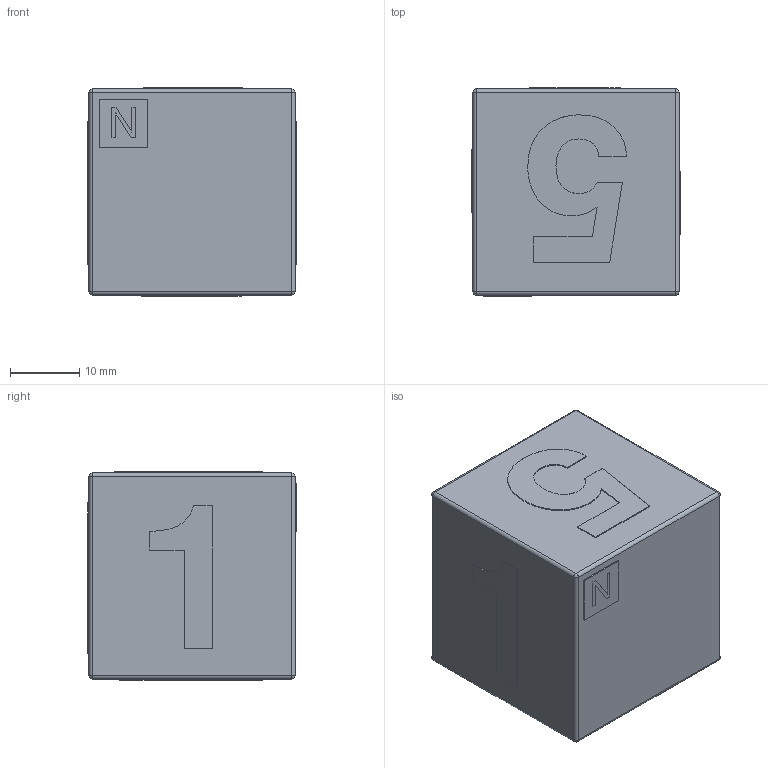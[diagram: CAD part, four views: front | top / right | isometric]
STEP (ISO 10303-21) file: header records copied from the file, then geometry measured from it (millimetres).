
FILE_DESCRIPTION(('Open CASCADE Model'),'2;1');
FILE_NAME('Open CASCADE Shape Model','2025-09-14T20:47:15',('Author'),( 'Open CASCADE'),'Open CASCADE STEP processor 7.8','Open CASCADE 7.8' ,'Unknown');
FILE_SCHEMA(('AUTOMOTIVE_DESIGN { 1 0 10303 214 1 1 1 1 }'));
Length unit declared in the file: millimetre
Products named in the file (18): 9d155fb2-91a3-11f0-88d2-1c1b0deae66b; 9d15619c-91a3-11f0-88d2-1c1b0deae66b; 9d15619c-91a3-11f0-88d2-1c1b0deae66b_part; 9d17750e-91a3-11f0-88d2-1c1b0deae66b; 9d17750e-91a3-11f0-88d2-1c1b0deae66b_part; 9d194d16-91a3-11f0-88d2-1c1b0deae66b; 9d194d16-91a3-11f0-88d2-1c1b0deae66b_part; 9d1a6da4-91a3-11f0-88d2-1c1b0deae66b; 9d1a6da4-91a3-11f0-88d2-1c1b0deae66b_part; 9d1bda22-91a3-11f0-88d2-1c1b0deae66b; 9d1bda22-91a3-11f0-88d2-1c1b0deae66b_part; 9d1d1afe-91a3-11f0-88d2-1c1b0deae66b; 9d1d1afe-91a3-11f0-88d2-1c1b0deae66b_part; 9d221fb8-91a3-11f0-88d2-1c1b0deae66b; 9d221fb8-91a3-11f0-88d2-1c1b0deae66b_part; 9d2221fc-91a3-11f0-88d2-1c1b0deae66b; 9d2221fc-91a3-11f0-88d2-1c1b0deae66b_part
Assembly tree (17 placements, depth 4):
  9d155fb2-91a3-11f0-88d2-1c1b0deae66b
    9d155fb2-91a3-11f0-88d2-1c1b0deae66b
      9d15619c-91a3-11f0-88d2-1c1b0deae66b
        9d15619c-91a3-11f0-88d2-1c1b0deae66b_part
      9d17750e-91a3-11f0-88d2-1c1b0deae66b
        9d17750e-91a3-11f0-88d2-1c1b0deae66b_part
      9d194d16-91a3-11f0-88d2-1c1b0deae66b
        9d194d16-91a3-11f0-88d2-1c1b0deae66b_part
      9d1a6da4-91a3-11f0-88d2-1c1b0deae66b
        9d1a6da4-91a3-11f0-88d2-1c1b0deae66b_part
      9d1bda22-91a3-11f0-88d2-1c1b0deae66b
        9d1bda22-91a3-11f0-88d2-1c1b0deae66b_part
      9d1d1afe-91a3-11f0-88d2-1c1b0deae66b
        9d1d1afe-91a3-11f0-88d2-1c1b0deae66b_part
      9d221fb8-91a3-11f0-88d2-1c1b0deae66b
        9d221fb8-91a3-11f0-88d2-1c1b0deae66b_part
      9d2221fc-91a3-11f0-88d2-1c1b0deae66b
        9d2221fc-91a3-11f0-88d2-1c1b0deae66b_part
Bounding box: 30 x 30 x 30 mm (x, y, z)
Volume: 26290.8 mm3; surface area: 6777.7 mm2
Topology: 8 solids, 8 shells, 148 faces, 380 edges, 240 vertices
Faces by surface type: plane 83, extrusion 45, cylinder 12, sphere 8
Entity records: 9602 total; most frequent: CARTESIAN_POINT 2004, DIRECTION 1215, VECTOR 925, LINE 880, ORIENTED_EDGE 744, PCURVE 744, DEFINITIONAL_REPRESENTATION 744, EDGE_CURVE 372
